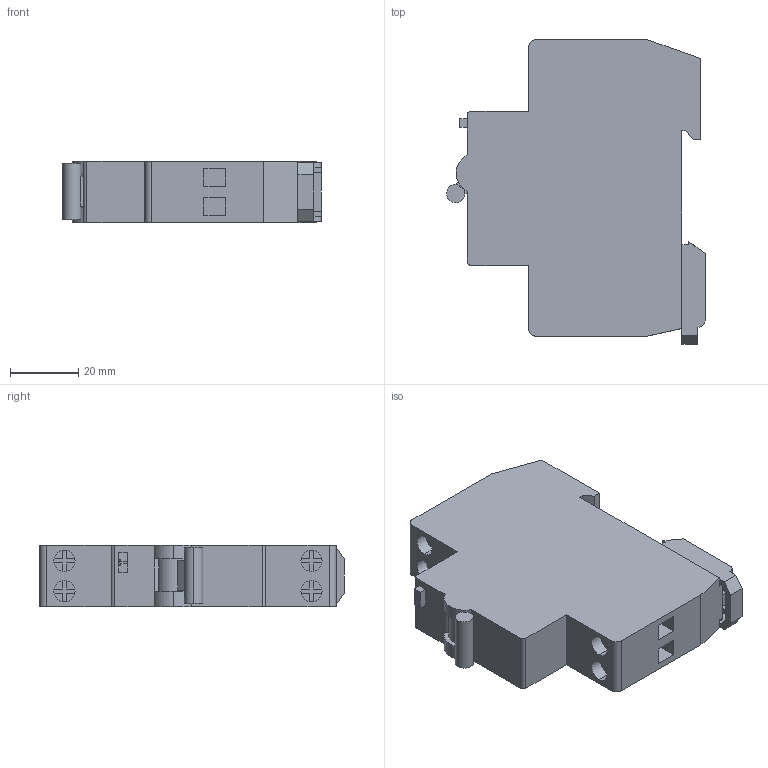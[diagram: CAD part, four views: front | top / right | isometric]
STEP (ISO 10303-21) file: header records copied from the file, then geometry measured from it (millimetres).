
FILE_DESCRIPTION (( 'STEP AP214' ), '1' );
FILE_NAME ('Aardlekautomaat 1P+N 1MOD.STEP', '2025-07-29T12:44:58', ( '' ), ( '' ), 'SwSTEP 2.0', 'SolidWorks 2025', '' );
FILE_SCHEMA (( 'AUTOMOTIVE_DESIGN' ));
Length unit declared in the file: millimetre
Products named in the file (3): CAD 10 clipje; Aardlekautomaat 1P+N 1MOD; CAD #10
Assembly tree (2 placements, depth 2):
  Aardlekautomaat 1P+N 1MOD
    CAD #10
    CAD 10 clipje
Bounding box: 76.07 x 89.43 x 18 mm (x, y, z)
Volume: 87146.5 mm3; surface area: 19243.7 mm2
Topology: 2 solids, 2 shells, 256 faces, 692 edges, 444 vertices
Faces by surface type: plane 231, cylinder 25
Entity records: 7996 total; most frequent: CARTESIAN_POINT 1397, ORIENTED_EDGE 1384, DIRECTION 1310, EDGE_CURVE 692, VECTOR 596, LINE 596, VERTEX_POINT 444, AXIS2_PLACEMENT_3D 357
